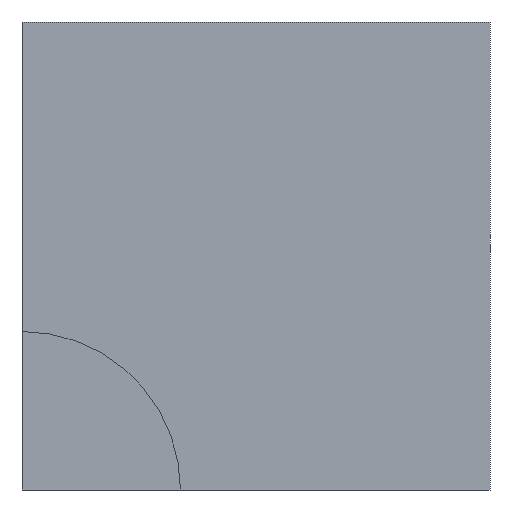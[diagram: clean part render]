
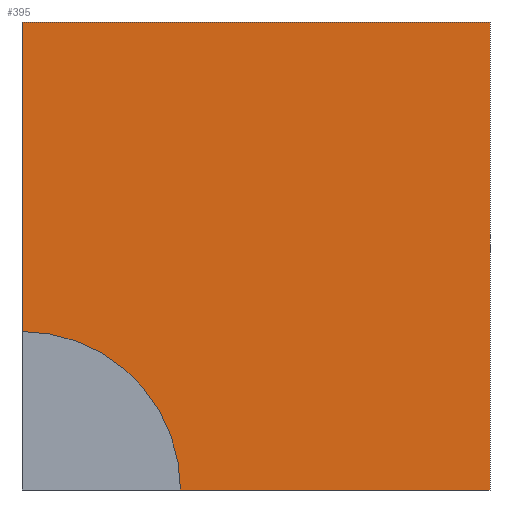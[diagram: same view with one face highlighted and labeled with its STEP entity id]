
A CAD part, front view. The second image highlights one B-rep face of the part: STEP entity #395.
In plain terms, the highlighted planar face has unit normal (0, -1, 0).
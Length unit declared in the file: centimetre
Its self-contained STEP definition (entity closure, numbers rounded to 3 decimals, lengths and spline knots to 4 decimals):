
#15 = VERTEX_POINT ( 'NONE', #307 ) ;
#21 = DIRECTION ( 'NONE',  ( 0., -1., 0. ) ) ;
#24 = LINE ( 'NONE', #205, #136 ) ;
#39 = CARTESIAN_POINT ( 'NONE',  ( 0., 0., 1000. ) ) ;
#41 = DIRECTION ( 'NONE',  ( 0., 0., -1. ) ) ;
#48 = CARTESIAN_POINT ( 'NONE',  ( 0., 0., 1000. ) ) ;
#50 = ORIENTED_EDGE ( 'NONE', *, *, #351, .F. ) ;
#55 = ORIENTED_EDGE ( 'NONE', *, *, #434, .T. ) ;
#60 = AXIS2_PLACEMENT_3D ( 'NONE', #462, #21, #428 ) ;
#63 = ORIENTED_EDGE ( 'NONE', *, *, #303, .F. ) ;
#93 = EDGE_LOOP ( 'NONE', ( #386, #63, #55, #50, #371 ) ) ;
#98 = VERTEX_POINT ( 'NONE', #364 ) ;
#103 = VECTOR ( 'NONE', #379, 100. ) ;
#109 = EDGE_CURVE ( 'NONE', #15, #235, #258, .T. ) ;
#131 = DIRECTION ( 'NONE',  ( 0., 0., 1. ) ) ;
#136 = VECTOR ( 'NONE', #472, 100. ) ;
#139 = VECTOR ( 'NONE', #153, 100. ) ;
#153 = DIRECTION ( 'NONE',  ( 1., 0., 0. ) ) ;
#163 = CARTESIAN_POINT ( 'NONE',  ( 0., 0., 1000. ) ) ;
#169 = CARTESIAN_POINT ( 'NONE',  ( 1000., 0., 1000. ) ) ;
#170 = EDGE_CURVE ( 'NONE', #15, #98, #190, .T. ) ;
#190 = LINE ( 'NONE', #48, #139 ) ;
#205 = CARTESIAN_POINT ( 'NONE',  ( 0., 0., 0. ) ) ;
#206 = CARTESIAN_POINT ( 'NONE',  ( 0., 0., 338.6035 ) ) ;
#231 = VERTEX_POINT ( 'NONE', #391 ) ;
#235 = VERTEX_POINT ( 'NONE', #206 ) ;
#239 = AXIS2_PLACEMENT_3D ( 'NONE', #163, #450, #131 ) ;
#240 = VERTEX_POINT ( 'NONE', #359 ) ;
#254 = CIRCLE ( 'NONE', #60, 338.6035 ) ;
#258 = LINE ( 'NONE', #39, #465 ) ;
#284 = PLANE ( 'NONE',  #239 ) ;
#303 = EDGE_CURVE ( 'NONE', #231, #235, #254, .T. ) ;
#307 = CARTESIAN_POINT ( 'NONE',  ( 0., 0., 1000. ) ) ;
#349 = LINE ( 'NONE', #169, #103 ) ;
#351 = EDGE_CURVE ( 'NONE', #98, #240, #349, .T. ) ;
#359 = CARTESIAN_POINT ( 'NONE',  ( 1000., 0., 0. ) ) ;
#364 = CARTESIAN_POINT ( 'NONE',  ( 1000., 0., 1000. ) ) ;
#371 = ORIENTED_EDGE ( 'NONE', *, *, #170, .F. ) ;
#379 = DIRECTION ( 'NONE',  ( 0., 0., -1. ) ) ;
#386 = ORIENTED_EDGE ( 'NONE', *, *, #109, .T. ) ;
#391 = CARTESIAN_POINT ( 'NONE',  ( 338.6035, 0., 0. ) ) ;
#395 = ADVANCED_FACE ( 'NONE', ( #421 ), #284, .F. ) ;
#421 = FACE_OUTER_BOUND ( 'NONE', #93, .T. ) ;
#428 = DIRECTION ( 'NONE',  ( 0., 0., -1. ) ) ;
#434 = EDGE_CURVE ( 'NONE', #231, #240, #24, .T. ) ;
#450 = DIRECTION ( 'NONE',  ( 0., 1., 0. ) ) ;
#462 = CARTESIAN_POINT ( 'NONE',  ( 0., 0., 0. ) ) ;
#465 = VECTOR ( 'NONE', #41, 100. ) ;
#472 = DIRECTION ( 'NONE',  ( 1., 0., 0. ) ) ;
